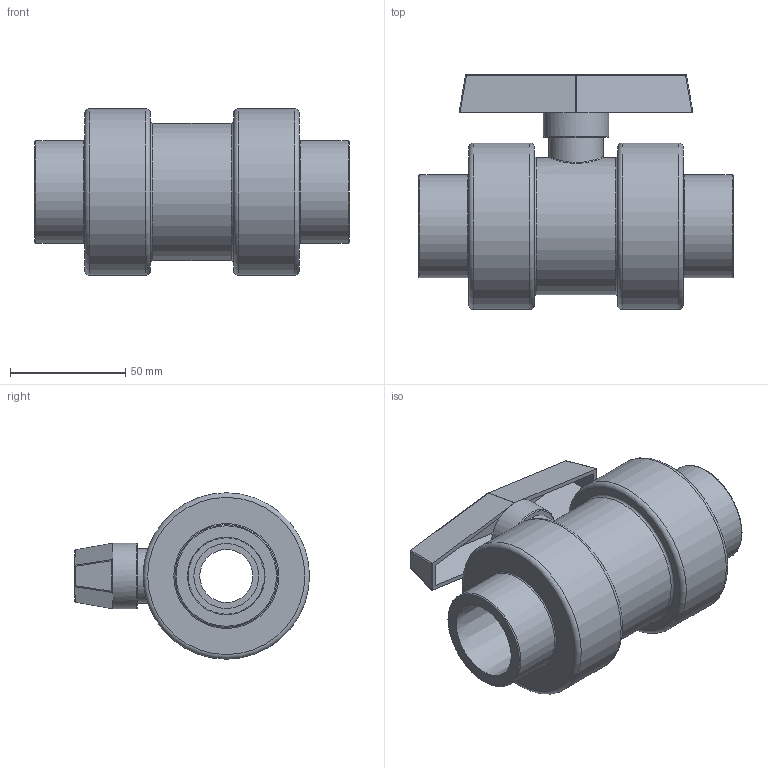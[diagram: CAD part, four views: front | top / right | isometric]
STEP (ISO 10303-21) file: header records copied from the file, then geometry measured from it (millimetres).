
FILE_DESCRIPTION (( 'STEP AP214' ), '1' );
FILE_NAME ('1 Inch -101 Series Ball Valves.STEP', '2020-10-27T09:05:55', ( '' ), ( '' ), 'SwSTEP 2.0', 'SolidWorks 2019', '' );
FILE_SCHEMA (( 'AUTOMOTIVE_DESIGN' ));
Length unit declared in the file: inch
Products named in the file (1): 1 Inch -101 Series Ball Valves
Bounding box: 136.53 x 102 x 72.23 mm (x, y, z)
Volume: 329276.6 mm3; surface area: 59743.8 mm2
Topology: 2 solids, 2 shells, 78 faces, 169 edges, 97 vertices
Faces by surface type: plane 31, cylinder 27, torus 11, sphere 6, cone 2, bspline 1
Full cylindrical faces by diameter (mm): 18.389 x1, 23.012 x1, 23.469 x2, 28.143 x2, 28.469 x1, 44.577 x2, 59.531 x1, 72.231 x2
Entity records: 2511 total; most frequent: CARTESIAN_POINT 910, DIRECTION 338, ORIENTED_EDGE 266, AXIS2_PLACEMENT_3D 140, EDGE_CURVE 133, EDGE_LOOP 118, FACE_OUTER_BOUND 102, VERTEX_POINT 93
